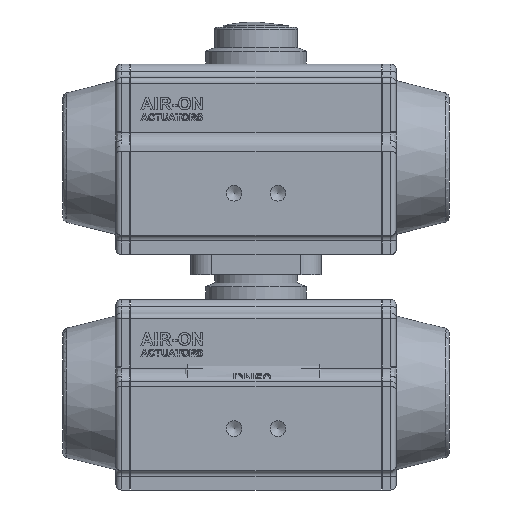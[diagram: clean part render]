
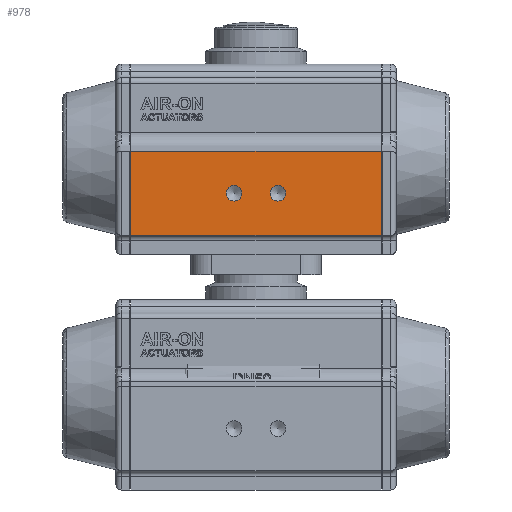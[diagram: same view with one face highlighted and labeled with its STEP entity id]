
A CAD part, front view. The second image highlights one B-rep face of the part: STEP entity #978.
In plain terms, the highlighted planar face has unit normal (0, -1, 0).
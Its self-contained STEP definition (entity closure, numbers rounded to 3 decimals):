
#978 = ADVANCED_FACE( '', ( #2244, #2245, #2246 ), #2247, .T. );
#2244 = FACE_BOUND( '', #5253, .T. );
#2245 = FACE_BOUND( '', #5254, .T. );
#2246 = FACE_OUTER_BOUND( '', #5255, .T. );
#2247 = PLANE( '', #5256 );
#5253 = EDGE_LOOP( '', ( #10219 ) );
#5254 = EDGE_LOOP( '', ( #10220 ) );
#5255 = EDGE_LOOP( '', ( #10221, #10222, #10223, #10224 ) );
#5256 = AXIS2_PLACEMENT_3D( '', #10225, #10226, #10227 );
#10219 = ORIENTED_EDGE( '', *, *, #13659, .T. );
#10220 = ORIENTED_EDGE( '', *, *, #13660, .T. );
#10221 = ORIENTED_EDGE( '', *, *, #13661, .F. );
#10222 = ORIENTED_EDGE( '', *, *, #13067, .F. );
#10223 = ORIENTED_EDGE( '', *, *, #13662, .T. );
#10224 = ORIENTED_EDGE( '', *, *, #13648, .T. );
#10225 = CARTESIAN_POINT( '', ( 68.5, -53.5, -42.5 ) );
#10226 = DIRECTION( '', ( 0., -1., 0. ) );
#10227 = DIRECTION( '', ( 0., 0., -1. ) );
#13067 = EDGE_CURVE( '', #14964, #14960, #14966, .T. );
#13648 = EDGE_CURVE( '', #15879, #15877, #15880, .T. );
#13659 = EDGE_CURVE( '', #15892, #15892, #15893, .T. );
#13660 = EDGE_CURVE( '', #15894, #15894, #15895, .T. );
#13661 = EDGE_CURVE( '', #14960, #15877, #15896, .T. );
#13662 = EDGE_CURVE( '', #14964, #15879, #15897, .T. );
#14960 = VERTEX_POINT( '', #18273 );
#14964 = VERTEX_POINT( '', #18279 );
#14966 = LINE( '', #18282, #18283 );
#15877 = VERTEX_POINT( '', #22039 );
#15879 = VERTEX_POINT( '', #22042 );
#15880 = LINE( '', #22043, #22044 );
#15892 = VERTEX_POINT( '', #22062 );
#15893 = CIRCLE( '', #22063, 4.283 );
#15894 = VERTEX_POINT( '', #22064 );
#15895 = CIRCLE( '', #22065, 4.283 );
#15896 = LINE( '', #22066, #22067 );
#15897 = LINE( '', #22068, #22069 );
#18273 = CARTESIAN_POINT( '', ( -68.5, -53.5, -42.5 ) );
#18279 = CARTESIAN_POINT( '', ( 68.5, -53.5, -42.5 ) );
#18282 = CARTESIAN_POINT( '', ( 68.5, -53.5, -42.5 ) );
#18283 = VECTOR( '', #24264, 1000. );
#22039 = CARTESIAN_POINT( '', ( -68.5, -53.5, 3.5 ) );
#22042 = CARTESIAN_POINT( '', ( 68.5, -53.5, 3.5 ) );
#22043 = CARTESIAN_POINT( '', ( 68.5, -53.5, 3.5 ) );
#22044 = VECTOR( '', #24703, 1000. );
#22062 = CARTESIAN_POINT( '', ( -12., -53.5, -23.783 ) );
#22063 = AXIS2_PLACEMENT_3D( '', #24707, #24708, #24709 );
#22064 = CARTESIAN_POINT( '', ( 12., -53.5, -23.783 ) );
#22065 = AXIS2_PLACEMENT_3D( '', #24710, #24711, #24712 );
#22066 = CARTESIAN_POINT( '', ( -68.5, -53.5, -42.5 ) );
#22067 = VECTOR( '', #24713, 1000. );
#22068 = CARTESIAN_POINT( '', ( 68.5, -53.5, -42.5 ) );
#22069 = VECTOR( '', #24714, 1000. );
#24264 = DIRECTION( '', ( -1., 0., 0. ) );
#24703 = DIRECTION( '', ( -1., 0., 0. ) );
#24707 = CARTESIAN_POINT( '', ( -12., -53.5, -19.5 ) );
#24708 = DIRECTION( '', ( 0., 1., 0. ) );
#24709 = DIRECTION( '', ( 0., 0., -1. ) );
#24710 = CARTESIAN_POINT( '', ( 12., -53.5, -19.5 ) );
#24711 = DIRECTION( '', ( 0., 1., 0. ) );
#24712 = DIRECTION( '', ( 0., 0., -1. ) );
#24713 = DIRECTION( '', ( 0., 0., 1. ) );
#24714 = DIRECTION( '', ( 0., 0., 1. ) );
